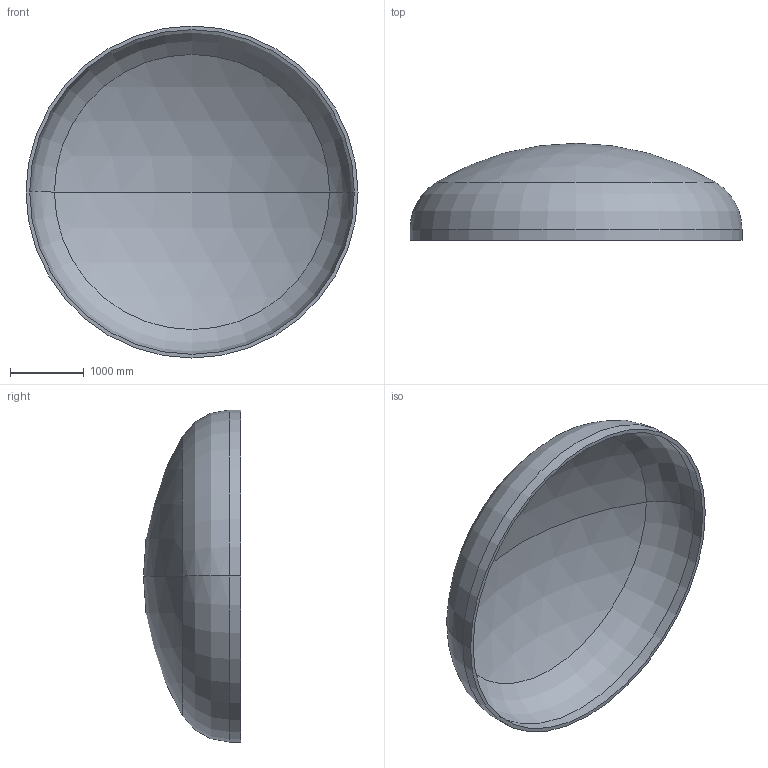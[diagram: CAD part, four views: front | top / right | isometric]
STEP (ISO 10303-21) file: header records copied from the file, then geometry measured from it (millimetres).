
FILE_DESCRIPTION (( 'STEP AP203' ), '1' );
FILE_NAME ('DIN 28013 Korbbogenform_-_Boden DIN 28013 - 4500 x 150 - I - s=50.step', '2016-07-01T23:31:55', ( '' ), ( '' ), 'SwSTEP 2.0', 'SolidWorks 2013', '' );
FILE_SCHEMA (( 'CONFIG_CONTROL_DESIGN' ));
Length unit declared in the file: millimetre
Products named in the file (1): DIN 28013 Korbbogenform_-_Boden DIN 28013 - 4500 x 150 - I - s=50
Bounding box: 4500 x 1315.25 x 4500 mm (x, y, z)
Volume: 1190763700.8 mm3; surface area: 48334771.1 mm2
Topology: 1 solids, 1 shells, 13 faces, 24 edges, 14 vertices
Faces by surface type: torus 4, cylinder 4, sphere 4, plane 1
Entity records: 407 total; most frequent: DIRECTION 72, CARTESIAN_POINT 52, ORIENTED_EDGE 48, AXIS2_PLACEMENT_3D 34, EDGE_CURVE 24, CIRCLE 20, EDGE_LOOP 14, VERTEX_POINT 14
